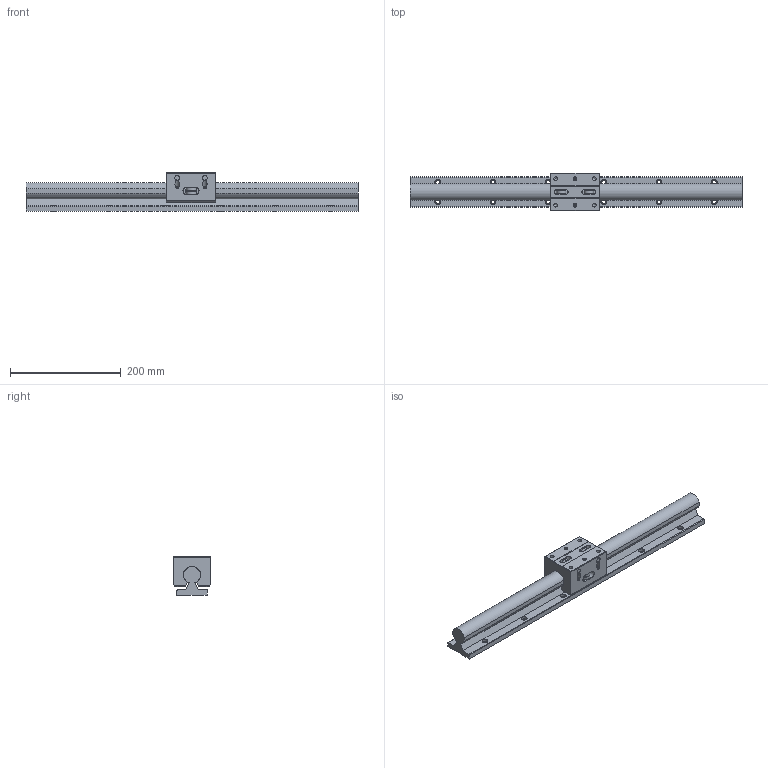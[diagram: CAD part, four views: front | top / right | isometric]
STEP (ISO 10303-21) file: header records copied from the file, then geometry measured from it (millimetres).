
FILE_DESCRIPTION((''),'2;1');
FILE_NAME('D:\製品 (図面)\カタログ用3D\リニアガイド関連\STEP形式\LTG\LTG30.stp','2010-06-02T16:06:43',('Tsuchiya'),(''),'Autodesk Inventor 10','Autodesk Inventor 10','');
FILE_SCHEMA(('AUTOMOTIVE_DESIGN { 1 0 10303 214 1 1 1 1 }'));
Length unit declared in the file: millimetre
Products named in the file (3): LTG30; LTG301; LTG302
Assembly tree (2 placements, depth 2):
  LTG30
    LTG301
    LTG302
Bounding box: 600 x 68 x 70 mm (x, y, z)
Volume: 1077165.8 mm3; surface area: 185542.9 mm2
Topology: 2 solids, 2 shells, 299 faces, 695 edges, 450 vertices
Faces by surface type: bspline 139, plane 93, cylinder 43, cone 20, torus 4
Full cylindrical faces by diameter (mm): 5 x1, 5.5 x1, 6 x3, 6.5 x1, 6.647 x2, 7 x3, 8 x5, 9 x4, 17 x3, 19 x2
Entity records: 9371 total; most frequent: CARTESIAN_POINT 3566, ORIENTED_EDGE 1078, DIRECTION 1033, EDGE_CURVE 539, EDGE_LOOP 511, VERTEX_POINT 416, AXIS2_PLACEMENT_3D 395, FACE_OUTER_BOUND 299
